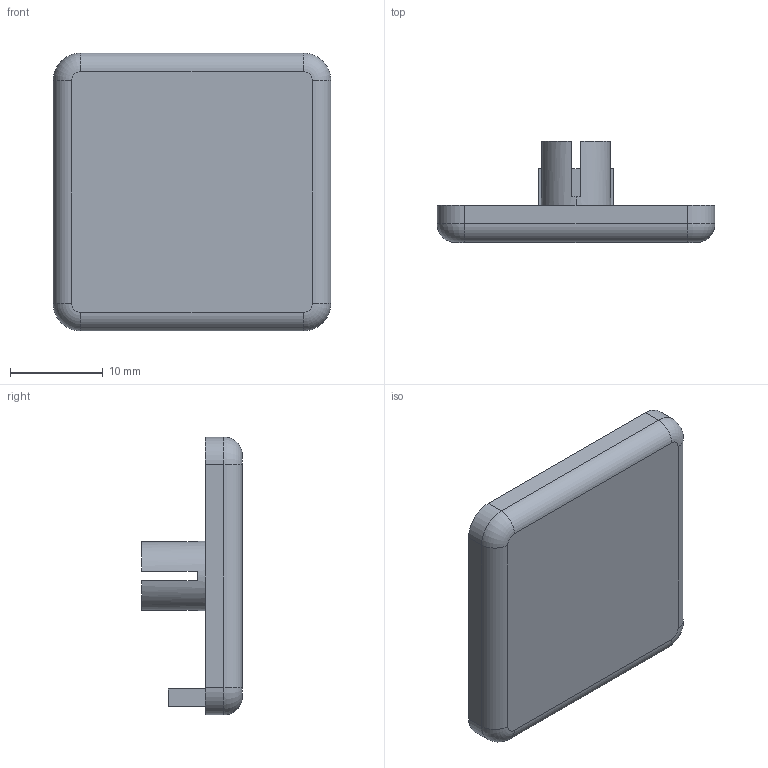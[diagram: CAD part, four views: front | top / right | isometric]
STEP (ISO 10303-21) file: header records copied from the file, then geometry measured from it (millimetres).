
FILE_DESCRIPTION (( 'STEP AP203' ), '1' );
FILE_NAME ('EC30X30.STEP', '2018-03-15T12:37:50', ( '' ), ( '' ), 'SwSTEP 2.0', 'SolidWorks 2013', '' );
FILE_SCHEMA (( 'CONFIG_CONTROL_DESIGN' ));
Length unit declared in the file: millimetre
Products named in the file (1): EC30X30
Bounding box: 30 x 10.9 x 30 mm (x, y, z)
Volume: 3081.7 mm3; surface area: 2644.1 mm2
Topology: 1 solids, 1 shells, 50 faces, 128 edges, 82 vertices
Faces by surface type: plane 32, cylinder 12, torus 4, cone 2
Entity records: 1595 total; most frequent: DIRECTION 276, CARTESIAN_POINT 261, ORIENTED_EDGE 256, EDGE_CURVE 128, AXIS2_PLACEMENT_3D 97, VECTOR 82, LINE 82, VERTEX_POINT 82
